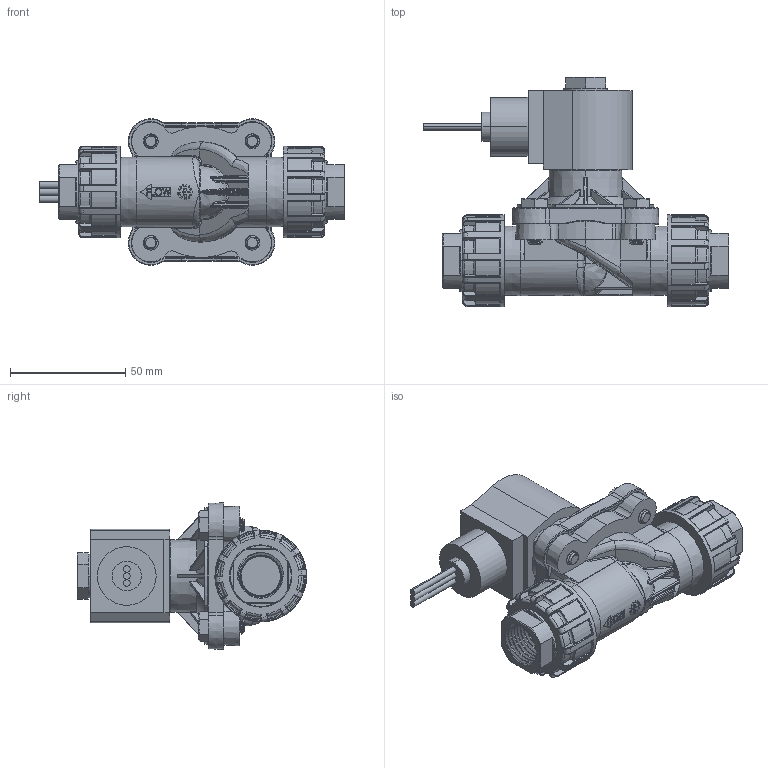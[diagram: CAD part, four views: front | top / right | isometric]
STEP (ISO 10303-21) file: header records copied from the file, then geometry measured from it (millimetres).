
FILE_DESCRIPTION (( 'STEP AP203' ), '1' );
FILE_NAME ('T211Gx02xPD2.STEP', '2024-05-06T16:33:22', ( '' ), ( '' ), 'SwSTEP 2.0', 'SolidWorks 2023', '' );
FILE_SCHEMA (( 'CONFIG_CONTROL_DESIGN' ));
Products named in the file (1): T211Gx02xPD2
Bounding box: 132.31 x 99.22 x 63.5 mm (x, y, z)
Volume: 212446.3 mm3; surface area: 42117.4 mm2
Topology: 1 solids, 1 shells, 2439 faces, 6315 edges, 3846 vertices
Faces by surface type: bspline 884, plane 629, cylinder 368, torus 274, cone 199, sphere 85
Entity records: 117615 total; most frequent: CARTESIAN_POINT 65954, ORIENTED_EDGE 12404, DIRECTION 8466, EDGE_CURVE 6202, VERTEX_POINT 3843, AXIS2_PLACEMENT_3D 3177, EDGE_LOOP 2517, ADVANCED_FACE 2439
